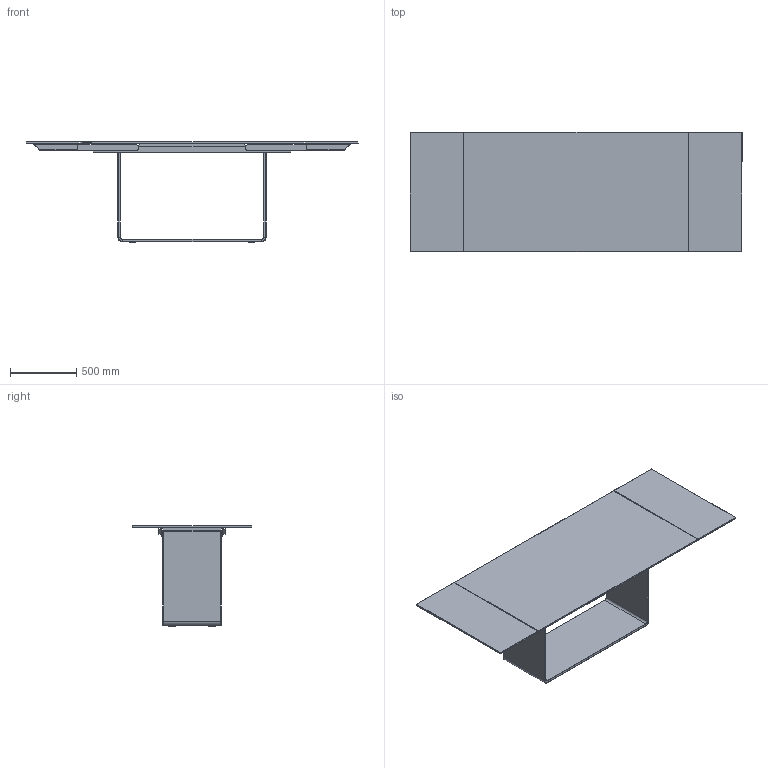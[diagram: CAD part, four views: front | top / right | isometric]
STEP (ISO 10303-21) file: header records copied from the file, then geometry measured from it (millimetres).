
FILE_DESCRIPTION((''),'2;1');
FILE_NAME('C:\AutodeskVault\AreaLavoro\Progetti\SoVeT Italia\1. Tavoli_Dining tables\Valencia\Valencia Extensible\Web file\Nome articolo Web\P1538.stp','2012-04-27T16:52:18',('Gianluca'),('So.Ve.T. s.r.l.'),'Autodesk Inventor 2011','Autodesk Inventor 2011','IL PROGETTO E'' DI ESCLUSIVA PROPRIETA'' DELLA SO.VE.T. srl. E'' VIETATA OGNI RIPRODUZIONE TOTALE O PARZIALE EQUALSIASI UTILIZZO NON AUTORIZZATO.');
FILE_SCHEMA(('AUTOMOTIVE_DESIGN { 1 0 10303 214 1 1 1 1 }'));
Length unit declared in the file: millimetre
Products named in the file (1): P1538 Contorno semplificato
Bounding box: 2509.14 x 900.01 x 760.67 mm (x, y, z)
Volume: 64263228.2 mm3; surface area: 8408576 mm2
Topology: 7 solids, 7 shells, 470 faces, 1152 edges, 724 vertices
Faces by surface type: plane 331, cylinder 76, cone 40, bspline 23
Full cylindrical faces by diameter (mm): 48 x4
Entity records: 14981 total; most frequent: CARTESIAN_POINT 3378, ORIENTED_EDGE 2296, DIRECTION 2194, EDGE_CURVE 1148, VECTOR 914, LINE 914, VERTEX_POINT 724, AXIS2_PLACEMENT_3D 640
